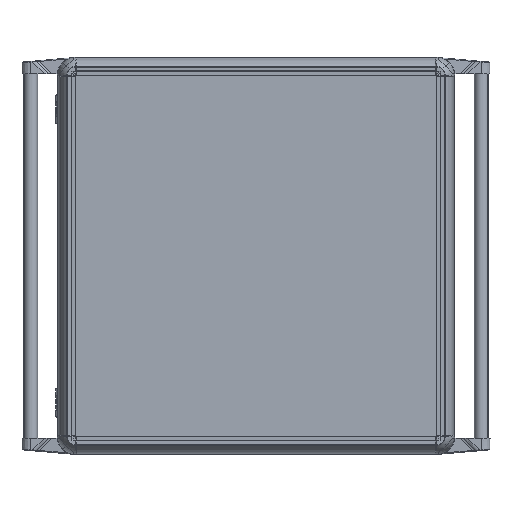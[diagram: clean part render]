
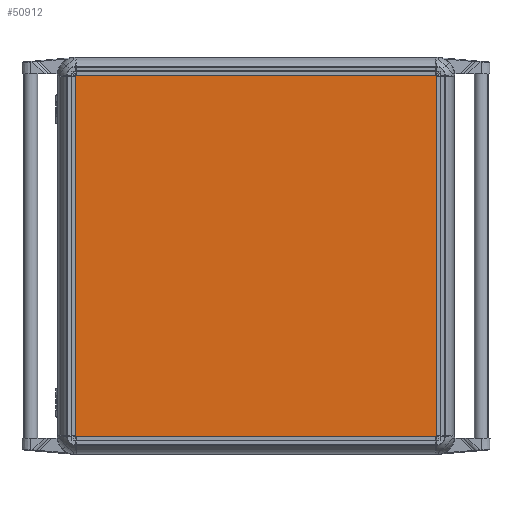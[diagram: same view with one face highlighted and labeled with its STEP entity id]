
A CAD part, top view. The second image highlights one B-rep face of the part: STEP entity #50912.
In plain terms, the highlighted planar face has unit normal (0, 0, 1).
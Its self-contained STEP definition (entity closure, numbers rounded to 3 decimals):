
#4506 = VERTEX_POINT ( 'NONE', #38553 ) ;
#6154 = ORIENTED_EDGE ( 'NONE', *, *, #47684, .T. ) ;
#16511 = VECTOR ( 'NONE', #142799, 1000. ) ;
#19941 = CARTESIAN_POINT ( 'NONE',  ( -250., 250., 2. ) ) ;
#22628 = ORIENTED_EDGE ( 'NONE', *, *, #119198, .T. ) ;
#22993 = CARTESIAN_POINT ( 'NONE',  ( -250., -250., 2. ) ) ;
#26784 = VERTEX_POINT ( 'NONE', #213602 ) ;
#38553 = CARTESIAN_POINT ( 'NONE',  ( -250., -250., 2. ) ) ;
#44163 = VERTEX_POINT ( 'NONE', #96381 ) ;
#46312 = VECTOR ( 'NONE', #198913, 1000. ) ;
#47684 = EDGE_CURVE ( 'NONE', #211006, #26784, #145119, .T. ) ;
#50912 = ADVANCED_FACE ( 'NONE', ( #138860 ), #184915, .T. ) ;
#51307 = LINE ( 'NONE', #19941, #95293 ) ;
#54588 = DIRECTION ( 'NONE',  ( 0., -1., 0. ) ) ;
#57978 = ORIENTED_EDGE ( 'NONE', *, *, #73895, .T. ) ;
#64617 = DIRECTION ( 'NONE',  ( 0., 1., 0. ) ) ;
#65723 = CARTESIAN_POINT ( 'NONE',  ( 250., 250., 2. ) ) ;
#73895 = EDGE_CURVE ( 'NONE', #26784, #4506, #51307, .T. ) ;
#75566 = AXIS2_PLACEMENT_3D ( 'NONE', #84985, #137781, #206046 ) ;
#84985 = CARTESIAN_POINT ( 'NONE',  ( 0., 0., 2. ) ) ;
#90016 = ORIENTED_EDGE ( 'NONE', *, *, #210494, .T. ) ;
#95293 = VECTOR ( 'NONE', #54588, 1000. ) ;
#96381 = CARTESIAN_POINT ( 'NONE',  ( 250., -250., 2. ) ) ;
#119198 = EDGE_CURVE ( 'NONE', #4506, #44163, #176479, .T. ) ;
#137781 = DIRECTION ( 'NONE',  ( 0., 0., 1. ) ) ;
#138860 = FACE_OUTER_BOUND ( 'NONE', #176424, .T. ) ;
#142799 = DIRECTION ( 'NONE',  ( 1., 0., 0. ) ) ;
#145119 = LINE ( 'NONE', #213475, #46312 ) ;
#149891 = LINE ( 'NONE', #65723, #215982 ) ;
#176424 = EDGE_LOOP ( 'NONE', ( #90016, #6154, #57978, #22628 ) ) ;
#176479 = LINE ( 'NONE', #22993, #16511 ) ;
#184915 = PLANE ( 'NONE',  #75566 ) ;
#197842 = CARTESIAN_POINT ( 'NONE',  ( 250., 250., 2. ) ) ;
#198913 = DIRECTION ( 'NONE',  ( -1., 0., 0. ) ) ;
#206046 = DIRECTION ( 'NONE',  ( 1., 0., 0. ) ) ;
#210494 = EDGE_CURVE ( 'NONE', #44163, #211006, #149891, .T. ) ;
#211006 = VERTEX_POINT ( 'NONE', #197842 ) ;
#213475 = CARTESIAN_POINT ( 'NONE',  ( -250., 250., 2. ) ) ;
#213602 = CARTESIAN_POINT ( 'NONE',  ( -250., 250., 2. ) ) ;
#215982 = VECTOR ( 'NONE', #64617, 1000. ) ;
